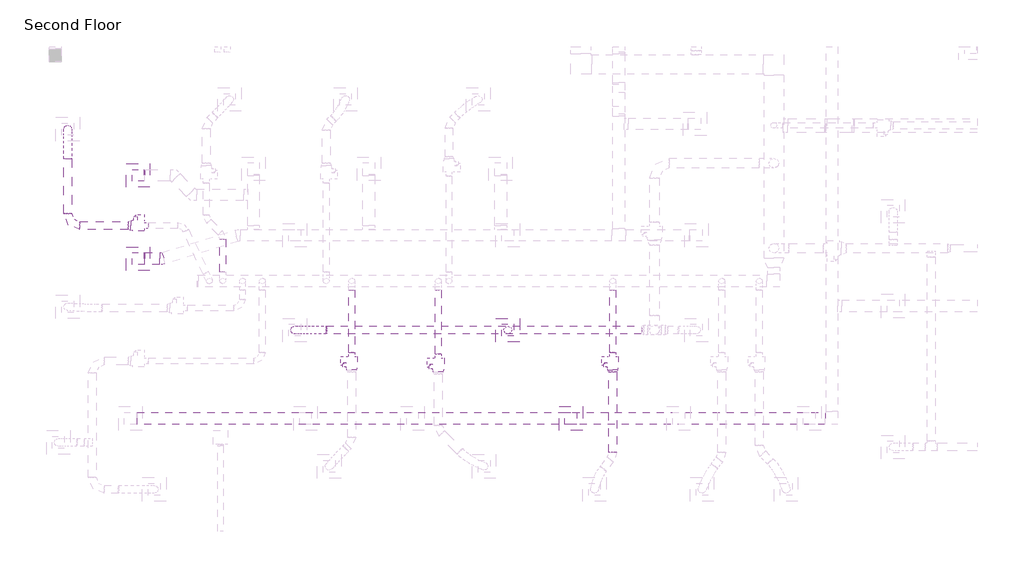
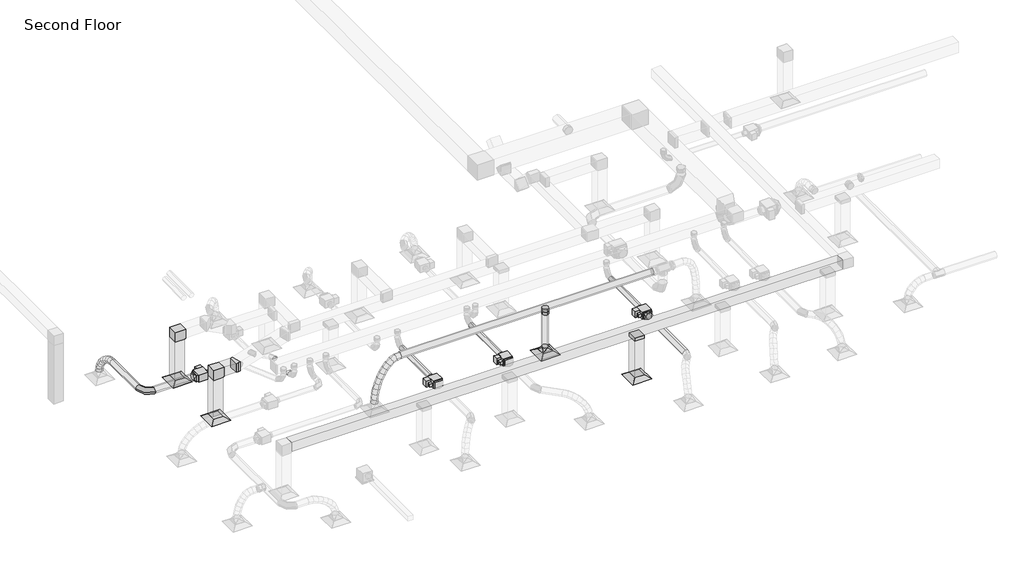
# One storey, part 4 of 44: 16 duct segments, 9 duct fittings, 4 air terminals, 4 proxies.
"""IFC4 building model written with IfcOpenShell, lengths in millimetres."""

from ifc_helpers import new_model, si_unit, point, frame, frame_2d, origin, place, context, project, spatial, polyline, circle_curve, ellipse_curve, trimmed, segment, composite_curve, outline, extrude, transform, mapped, element, save
from ifc_brep_helpers import plane_surface, cylinder_surface, advanced_brep
from components import m_exhaust_grill_er_600_x_600_face_300_x_300_connection_ff221211, m_vav_unit_single_duct_150_mm_ffdab17b, m_rectangular_elbow_mitered_standard_8eee5933, m_rectangular_elbow_mitered_standard_7d0aea46, m_rectangular_takeoff_standard_c00386d1, m_rectangular_to_round_transition_angle_45_degree_1b7ae117, m_rectangular_to_round_transition_angle_45_degree_fe40cbe3, m_round_elbow_1_5_d_b7bc3624, m_round_takeoff_standard_c62ca294

model = new_model("IFC4")

# Units and contexts
model_context = context("Model", 3, world=origin())
ifc_project = project(units=[si_unit("LENGTHUNIT", "METRE", prefix="MILLI")], contexts=[model_context])

# Site, building, storey
site = spatial("IfcSite", under=ifc_project)
building = spatial("IfcBuilding", under=site)
storey = spatial("IfcBuildingStorey", under=building, Name="Second Floor", Elevation=4570.0)

# Air terminals
placement = place(None, origin())
m_exhaust_grill_er_600_x_600_face_300_x_300_connection_shape = m_exhaust_grill_er_600_x_600_face_300_x_300_connection_ff221211(model_context)
element("IfcAirTerminal", 1, ObjectType="M_Return Register : RR-600 x 600 Face 300 x 300 Connection", at=placement, inside=storey, context=model_context, shape_type="MappedRepresentation", body=[
    mapped(m_exhaust_grill_er_600_x_600_face_300_x_300_connection_shape, transform((-33219.099187, 12657.116341, 7250.0), x_axis=(1.0, 0.0, 0.0), y_axis=(0.0, 1.0, 0.0), z_axis=(0.0, 0.0, 1.0))),
])
element("IfcAirTerminal", 2, ObjectType="M_Return Register : RR-600 x 600 Face 300 x 300 Connection", at=placement, inside=storey, context=model_context, shape_type="MappedRepresentation", body=[
    mapped(m_exhaust_grill_er_600_x_600_face_300_x_300_connection_shape, transform((-44196.6192649, 16712.5094853, 7250.0), x_axis=(1.0, 0.0, 0.0), y_axis=(0.0, 1.0, 0.0), z_axis=(0.0, 0.0, 1.0))),
])
element("IfcAirTerminal", 3, ObjectType="M_Return Register : RR-600 x 600 Face 300 x 300 Connection", at=placement, inside=storey, context=model_context, shape_type="MappedRepresentation", body=[
    mapped(m_exhaust_grill_er_600_x_600_face_300_x_300_connection_shape, transform((-44196.6192649, 18829.5508539, 7250.0), x_axis=(1.0, 0.0, 0.0), y_axis=(0.0, 1.0, 0.0), z_axis=(0.0, 0.0, 1.0))),
])
element("IfcAirTerminal", 4, ObjectType="M_Supply Diffuser : SD-600 x 600 Face 300 x 300 Connection", at=placement, inside=storey, context=model_context, shape_type="MappedRepresentation", body=[
    mapped(m_exhaust_grill_er_600_x_600_face_300_x_300_connection_shape, transform((-34817.740769, 14899.476398, 7250.0), x_axis=(1.0, 0.0, 0.0), y_axis=(0.0, 1.0, 0.0), z_axis=(0.0, 0.0, 1.0))),
])

# Proxies
m_vav_unit_single_duct_150_mm_shape = m_vav_unit_single_duct_150_mm_ffdab17b(model_context)
element("IfcBuildingElementProxy", 5, Name="M_VAV Unit - Single Duct : 150 mm", ObjectType="M_VAV Unit - Single Duct : 150 mm", at=placement, inside=storey, context=model_context, shape_type="MappedRepresentation", body=[
    mapped(m_vav_unit_single_duct_150_mm_shape, transform((-38775.1271337, 14234.6174916, 8070.0), x_axis=(0.0, -1.0, 0.0), y_axis=(1.0, 0.0, 0.0), z_axis=(0.0, 0.0, 1.0))),
])
element("IfcBuildingElementProxy", 6, Name="M_VAV Unit - Single Duct : 150 mm", ObjectType="M_VAV Unit - Single Duct : 150 mm", at=placement, inside=storey, context=model_context, shape_type="MappedRepresentation", body=[
    mapped(m_vav_unit_single_duct_150_mm_shape, transform((-36578.6814374, 14186.2279081, 8070.0), x_axis=(0.0, -1.0, 0.0), y_axis=(1.0, 0.0, 0.0), z_axis=(0.0, 0.0, 1.0))),
])
element("IfcBuildingElementProxy", 7, Name="M_VAV Unit - Single Duct : 150 mm", ObjectType="M_VAV Unit - Single Duct : 150 mm", at=placement, inside=storey, context=model_context, shape_type="MappedRepresentation", body=[
    mapped(m_vav_unit_single_duct_150_mm_shape, transform((-32155.5986641, 14234.6174916, 8070.0), x_axis=(0.0, -1.0, 0.0), y_axis=(1.0, 0.0, 0.0), z_axis=(0.0, 0.0, 1.0))),
])
element("IfcBuildingElementProxy", 8, Name="M_VAV Unit - Single Duct : 150 mm", ObjectType="M_VAV Unit - Single Duct : 150 mm", at=placement, inside=storey, context=model_context, shape_type="MappedRepresentation", body=[
    mapped(m_vav_unit_single_duct_150_mm_shape, transform((-44044.3292263, 17554.2706552, 8070.0), x_axis=(-1.0, 0.0, 0.0), y_axis=(0.0, -1.0, 0.0), z_axis=(0.0, 0.0, 1.0))),
])

# Duct fittings
m_rectangular_elbow_mitered_standard_shape = m_rectangular_elbow_mitered_standard_8eee5933(model_context)
element("IfcDuctFitting", 9, ObjectType="M_Rectangular Elbow - Mitered : Standard", at=placement, inside=storey, context=model_context, shape_type="MappedRepresentation", body=[
    mapped(m_rectangular_elbow_mitered_standard_shape, transform((-44196.6192649, 16712.5094853, 8820.0), x_axis=(0.0, 0.0, 1.0), y_axis=(1.0, 0.0, 0.0), z_axis=(0.0, 1.0, 0.0))),
])
element("IfcDuctFitting", 10, ObjectType="M_Rectangular Elbow - Mitered : Standard", at=placement, inside=storey, context=model_context, shape_type="MappedRepresentation", body=[
    mapped(m_rectangular_elbow_mitered_standard_shape, transform((-44196.6192649, 18829.5508539, 8820.0), x_axis=(0.0, 0.0, 1.0), y_axis=(1.0, 0.0, 0.0), z_axis=(0.0, 1.0, 0.0))),
])
m_rectangular_elbow_mitered_standard_2_shape = m_rectangular_elbow_mitered_standard_7d0aea46(model_context)
element("IfcDuctFitting", 11, ObjectType="M_Rectangular Elbow - Mitered : Standard", at=placement, inside=storey, context=model_context, shape_type="MappedRepresentation", body=[
    mapped(m_rectangular_elbow_mitered_standard_2_shape, transform((-43596.6192649, 16712.5094853, 8820.0), x_axis=(1.0, 0.0, 0.0), y_axis=(0.0, 1.0, 0.0), z_axis=(0.0, 0.0, 1.0))),
])
m_rectangular_takeoff_standard_shape = m_rectangular_takeoff_standard_c00386d1(model_context)
element("IfcDuctFitting", 12, ObjectType="M_Rectangular Takeoff : Standard", at=placement, inside=storey, context=model_context, shape_type="MappedRepresentation", body=[
    mapped(m_rectangular_takeoff_standard_shape, transform((-33219.099187, 12657.116341, 8670.0), x_axis=(0.0, 0.0, -1.0), y_axis=(0.0, 1.0, 0.0), z_axis=(1.0, 0.0, 0.0))),
])
m_rectangular_to_round_transition_angle_45_degree_shape = m_rectangular_to_round_transition_angle_45_degree_1b7ae117(model_context)
element("IfcDuctFitting", 13, ObjectType="M_Rectangular to Round Transition - Angle : 45 Degree", at=placement, inside=storey, context=model_context, shape_type="MappedRepresentation", body=[
    mapped(m_rectangular_to_round_transition_angle_45_degree_shape, transform((-32155.5986641, 13891.8174916, 8189.05), x_axis=(0.0, -1.0, 0.0), y_axis=(1.0, 0.0, 0.0), z_axis=(0.0, 0.0, 1.0))),
])
element("IfcDuctFitting", 14, ObjectType="M_Rectangular to Round Transition - Angle : 45 Degree", at=placement, inside=storey, context=model_context, shape_type="MappedRepresentation", body=[
    mapped(m_rectangular_to_round_transition_angle_45_degree_shape, transform((-44387.1292263, 17554.2706552, 8189.05), x_axis=(-1.0, 0.0, 0.0), y_axis=(0.0, -1.0, 0.0), z_axis=(0.0, 0.0, 1.0))),
])
m_rectangular_to_round_transition_angle_45_degree_2_shape = m_rectangular_to_round_transition_angle_45_degree_fe40cbe3(model_context)
element("IfcDuctFitting", 15, ObjectType="M_Rectangular to Round Transition - Angle : 45 Degree", at=placement, inside=storey, context=model_context, shape_type="MappedRepresentation", body=[
    mapped(m_rectangular_to_round_transition_angle_45_degree_2_shape, transform((-34817.740769, 14899.476398, 7351.6), x_axis=(0.0, 0.0, 1.0), y_axis=(0.0, -1.0, 0.0), z_axis=(1.0, 0.0, 0.0))),
])
m_round_elbow_1_5_d_shape = m_round_elbow_1_5_d_b7bc3624(model_context)
element("IfcDuctFitting", 16, ObjectType="M_Round Elbow : 1.5 D", at=placement, inside=storey, context=model_context, shape_type="MappedRepresentation", body=[
    mapped(m_round_elbow_1_5_d_shape, transform((-45979.7910179, 17554.2706552, 8189.1), x_axis=(0.0, -1.0, 0.0), y_axis=(1.0, 0.0, 0.0), z_axis=(0.0, 0.0, 1.0))),
])
m_round_takeoff_standard_shape = m_round_takeoff_standard_c62ca294(model_context)
element("IfcDuctFitting", 17, ObjectType="M_Round Takeoff : Standard", at=placement, inside=storey, context=model_context, shape_type="MappedRepresentation", body=[
    mapped(m_round_takeoff_standard_shape, transform((-34817.740769, 14899.476398, 8670.0), x_axis=(0.0, 0.0, -1.0), y_axis=(0.0, 1.0, 0.0), z_axis=(1.0, 0.0, 0.0))),
])

# Duct segments
element("IfcDuctSegment", 18, ObjectType="Flex - Round", at=placement, inside=storey, context=model_context, shape_type="AdvancedBrep", body=[
    advanced_brep(
    [(-46079.7910179, 19254.2706545, 8189.1), (-45979.7910179, 19241.6620237, 8089.8980725), (-45879.7910179, 19254.2706545, 8189.1), (-45979.7910179, 19266.8792853, 8288.3019275), (-46079.7910179, 19385.3206607, 8172.4434572), (-45979.7910179, 19361.8993201, 8074.6158323), (-45879.7910179, 19385.3206607, 8172.4434572), (-45979.7910179, 19408.7420014, 8270.2710822), (-46079.7910179, 20000.1386962, 7472.3106781), (-45979.7910179, 20099.2005511, 7485.9762884), (-45879.7910179, 20000.1386962, 7472.3106781), (-45979.7910179, 19901.0768413, 7458.6450678), (-46079.7910179, 19516.2833767, 8125.5919487), (-45979.7910179, 19474.1281781, 8034.4663038), (-45879.7910179, 19516.2833767, 8125.5919487), (-45979.7910179, 19558.4385754, 8216.7175936), (-46079.7910179, 19641.8000903, 8053.2226541), (-45979.7910179, 19584.9343117, 7970.5787027), (-45879.7910179, 19641.8000903, 8053.2226541), (-45979.7910179, 19698.6658689, 8135.8666055), (-46079.7910179, 19756.5120893, 7960.012753), (-45979.7910179, 19687.420981, 7887.3025643), (-45879.7910179, 19756.5120893, 7960.012753), (-45979.7910179, 19825.6031977, 8032.7229417), (-46079.7910179, 19855.0606616, 7850.6394252), (-45979.7910179, 19775.2014978, 7789.8800749), (-45879.7910179, 19855.0606616, 7850.6394252), (-45979.7910179, 19934.9198254, 7911.3987756), (-46079.7910179, 19932.0870949, 7729.7798504), (-45979.7910179, 19842.5510778, 7684.2041237), (-45879.7910179, 19932.0870949, 7729.7798504), (-45979.7910179, 20021.623112, 7775.355577), (-46079.7910179, 19982.2326772, 7602.1112081), (-45979.7910179, 19884.7990741, 7576.6424187), (-45879.7910179, 19982.2326772, 7602.1112081), (-45979.7910179, 20079.6662803, 7627.5799975)],
    [
        (0, 1, circle_curve(frame((-45979.7910179, 19254.2706545, 8189.1), z_axis=(0.0, -0.9920192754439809, 0.1260863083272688), x_axis=(-1.0, 0.0, 0.0)), 100.0)),
        (1, 2, circle_curve(frame((-45979.7910179, 19254.2706545, 8189.1), z_axis=(0.0, -0.9920192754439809, 0.1260863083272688), x_axis=(-1.0, 0.0, 0.0)), 100.0)),
        (2, 3, circle_curve(frame((-45979.7910179, 19254.2706545, 8189.1), z_axis=(0.0, -0.9920192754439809, 0.1260863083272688), x_axis=(-1.0, 0.0, 0.0)), 100.0)),
        (3, 0, circle_curve(frame((-45979.7910179, 19254.2706545, 8189.1), z_axis=(0.0, -0.9920192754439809, 0.1260863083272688), x_axis=(-1.0, 0.0, 0.0)), 100.0)),
        (0, 4),
        (4, 5, ellipse_curve(frame((-45979.7910179, 19385.3206607, 8172.4434572), z_axis=(0.0, -0.972516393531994, 0.2328344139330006), x_axis=(0.0, -0.2328344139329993, -0.9725163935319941)), 100.5922631, 100.0)),
        (5, 1),
        (5, 6, ellipse_curve(frame((-45979.7910179, 19385.3206607, 8172.4434572), z_axis=(0.0, -0.972516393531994, 0.2328344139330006), x_axis=(0.0, -0.2328344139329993, -0.9725163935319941)), 100.5922631, 100.0)),
        (6, 2),
        (6, 7, ellipse_curve(frame((-45979.7910179, 19385.3206607, 8172.4434572), z_axis=(0.0, -0.972516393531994, 0.2328344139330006), x_axis=(0.0, -0.2328344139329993, -0.9725163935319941)), 100.5922631, 100.0)),
        (7, 3),
        (7, 4, ellipse_curve(frame((-45979.7910179, 19385.3206607, 8172.4434572), z_axis=(0.0, -0.972516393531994, 0.2328344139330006), x_axis=(0.0, -0.2328344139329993, -0.9725163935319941)), 100.5922631, 100.0)),
        (8, 9, circle_curve(frame((-45979.7910179, 20000.1386962, 7472.3106781), z_axis=(0.0, 0.1366561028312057, -0.9906185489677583), x_axis=(-1.0, 0.0, 0.0)), 100.0)),
        (9, 10, circle_curve(frame((-45979.7910179, 20000.1386962, 7472.3106781), z_axis=(0.0, 0.1366561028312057, -0.9906185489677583), x_axis=(-1.0, 0.0, 0.0)), 100.0)),
        (10, 11, circle_curve(frame((-45979.7910179, 20000.1386962, 7472.3106781), z_axis=(0.0, 0.1366561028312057, -0.9906185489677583), x_axis=(-1.0, 0.0, 0.0)), 100.0)),
        (11, 8, circle_curve(frame((-45979.7910179, 20000.1386962, 7472.3106781), z_axis=(0.0, 0.1366561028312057, -0.9906185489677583), x_axis=(-1.0, 0.0, 0.0)), 100.0)),
        (4, 12),
        (12, 13, ellipse_curve(frame((-45979.7910179, 19516.2833767, 8125.5919487), z_axis=(0.0, -0.9075906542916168, 0.4198561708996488), x_axis=(0.0, -0.41985617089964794, -0.907590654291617)), 100.403904, 100.0)),
        (13, 5),
        (13, 14, ellipse_curve(frame((-45979.7910179, 19516.2833767, 8125.5919487), z_axis=(0.0, -0.9075906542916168, 0.4198561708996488), x_axis=(0.0, -0.41985617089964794, -0.907590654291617)), 100.403904, 100.0)),
        (14, 6),
        (14, 15, ellipse_curve(frame((-45979.7910179, 19516.2833767, 8125.5919487), z_axis=(0.0, -0.9075906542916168, 0.4198561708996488), x_axis=(0.0, -0.41985617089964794, -0.907590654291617)), 100.403904, 100.0)),
        (15, 7),
        (15, 12, ellipse_curve(frame((-45979.7910179, 19516.2833767, 8125.5919487), z_axis=(0.0, -0.9075906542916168, 0.4198561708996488), x_axis=(0.0, -0.41985617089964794, -0.907590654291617)), 100.403904, 100.0)),
        (12, 16),
        (16, 17, ellipse_curve(frame((-45979.7910179, 19641.8000903, 8053.2226541), z_axis=(0.0, -0.8238181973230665, 0.5668541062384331), x_axis=(0.0, -0.566854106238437, -0.8238181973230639)), 100.3181912, 100.0)),
        (17, 13),
        (17, 18, ellipse_curve(frame((-45979.7910179, 19641.8000903, 8053.2226541), z_axis=(0.0, -0.8238181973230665, 0.5668541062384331), x_axis=(0.0, -0.566854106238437, -0.8238181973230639)), 100.3181912, 100.0)),
        (18, 14),
        (18, 19, ellipse_curve(frame((-45979.7910179, 19641.8000903, 8053.2226541), z_axis=(0.0, -0.8238181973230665, 0.5668541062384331), x_axis=(0.0, -0.566854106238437, -0.8238181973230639)), 100.3181912, 100.0)),
        (19, 15),
        (19, 16, ellipse_curve(frame((-45979.7910179, 19641.8000903, 8053.2226541), z_axis=(0.0, -0.8238181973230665, 0.5668541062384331), x_axis=(0.0, -0.566854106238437, -0.8238181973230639)), 100.3181912, 100.0)),
        (16, 20),
        (20, 21, ellipse_curve(frame((-45979.7910179, 19756.5120893, 7960.012753), z_axis=(0.0, -0.7249176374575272, 0.6888355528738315), x_axis=(0.0, -0.688835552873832, -0.7249176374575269)), 100.30131, 100.0)),
        (21, 17),
        (21, 22, ellipse_curve(frame((-45979.7910179, 19756.5120893, 7960.012753), z_axis=(0.0, -0.7249176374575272, 0.6888355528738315), x_axis=(0.0, -0.688835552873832, -0.7249176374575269)), 100.30131, 100.0)),
        (22, 18),
        (22, 23, ellipse_curve(frame((-45979.7910179, 19756.5120893, 7960.012753), z_axis=(0.0, -0.7249176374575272, 0.6888355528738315), x_axis=(0.0, -0.688835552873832, -0.7249176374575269)), 100.30131, 100.0)),
        (23, 19),
        (23, 20, ellipse_curve(frame((-45979.7910179, 19756.5120893, 7960.012753), z_axis=(0.0, -0.7249176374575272, 0.6888355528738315), x_axis=(0.0, -0.688835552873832, -0.7249176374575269)), 100.30131, 100.0)),
        (20, 24),
        (24, 25, ellipse_curve(frame((-45979.7910179, 19855.0606616, 7850.6394252), z_axis=(0.0, -0.6055025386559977, 0.7958433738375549), x_axis=(0.0, -0.7958433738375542, -0.6055025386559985)), 100.3453272, 100.0)),
        (25, 21),
        (25, 26, ellipse_curve(frame((-45979.7910179, 19855.0606616, 7850.6394252), z_axis=(0.0, -0.6055025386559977, 0.7958433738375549), x_axis=(0.0, -0.7958433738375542, -0.6055025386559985)), 100.3453272, 100.0)),
        (26, 22),
        (26, 27, ellipse_curve(frame((-45979.7910179, 19855.0606616, 7850.6394252), z_axis=(0.0, -0.6055025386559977, 0.7958433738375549), x_axis=(0.0, -0.7958433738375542, -0.6055025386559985)), 100.3453272, 100.0)),
        (27, 23),
        (27, 24, ellipse_curve(frame((-45979.7910179, 19855.0606616, 7850.6394252), z_axis=(0.0, -0.6055025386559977, 0.7958433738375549), x_axis=(0.0, -0.7958433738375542, -0.6055025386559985)), 100.3453272, 100.0)),
        (24, 28),
        (28, 29, ellipse_curve(frame((-45979.7910179, 19932.0870949, 7729.7798504), z_axis=(0.0, -0.4536336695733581, 0.8911882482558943), x_axis=(0.0, -0.8911882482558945, -0.4536336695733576)), 100.4681304, 100.0)),
        (29, 25),
        (29, 30, ellipse_curve(frame((-45979.7910179, 19932.0870949, 7729.7798504), z_axis=(0.0, -0.4536336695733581, 0.8911882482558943), x_axis=(0.0, -0.8911882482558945, -0.4536336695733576)), 100.4681304, 100.0)),
        (30, 26),
        (30, 31, ellipse_curve(frame((-45979.7910179, 19932.0870949, 7729.7798504), z_axis=(0.0, -0.4536336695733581, 0.8911882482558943), x_axis=(0.0, -0.8911882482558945, -0.4536336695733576)), 100.4681304, 100.0)),
        (31, 27),
        (31, 28, ellipse_curve(frame((-45979.7910179, 19932.0870949, 7729.7798504), z_axis=(0.0, -0.4536336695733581, 0.8911882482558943), x_axis=(0.0, -0.8911882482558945, -0.4536336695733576)), 100.4681304, 100.0)),
        (28, 32),
        (32, 33, ellipse_curve(frame((-45979.7910179, 19982.2326772, 7602.1112081), z_axis=(0.0, -0.25289906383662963, 0.967492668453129), x_axis=(0.0, -0.9674926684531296, -0.25289906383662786)), 100.7073296, 100.0)),
        (33, 29),
        (33, 34, ellipse_curve(frame((-45979.7910179, 19982.2326772, 7602.1112081), z_axis=(0.0, -0.25289906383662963, 0.967492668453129), x_axis=(0.0, -0.9674926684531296, -0.25289906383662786)), 100.7073296, 100.0)),
        (34, 30),
        (34, 35, ellipse_curve(frame((-45979.7910179, 19982.2326772, 7602.1112081), z_axis=(0.0, -0.25289906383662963, 0.967492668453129), x_axis=(0.0, -0.9674926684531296, -0.25289906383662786)), 100.7073296, 100.0)),
        (35, 31),
        (35, 32, ellipse_curve(frame((-45979.7910179, 19982.2326772, 7602.1112081), z_axis=(0.0, -0.25289906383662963, 0.967492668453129), x_axis=(0.0, -0.9674926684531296, -0.25289906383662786)), 100.7073296, 100.0)),
        (32, 8),
        (11, 33),
        (10, 34),
        (9, 35),
    ],
    [
        plane_surface(frame((-45979.7910179, 19266.8792853, 8288.3019275), z_axis=(0.0, -0.992019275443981, 0.1260863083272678), x_axis=(1.0, 0.0, 0.0))),
        cylinder_surface(frame((-45979.7910179, 19254.2706545, 8189.1), z_axis=(0.0, -0.9920192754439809, 0.1260863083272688), x_axis=(-1.0, 0.0, 0.0)), 100.0),
        plane_surface(frame((-45979.7910179, 20099.2005511, 7485.9762884), z_axis=(0.0, 0.1366561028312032, -0.9906185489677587), x_axis=(1.0, 0.0, 0.0))),
        cylinder_surface(frame((-45979.7910179, 19385.3206607, 8172.4434572), z_axis=(0.0, -0.9415616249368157, 0.33684077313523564), x_axis=(-1.0, 0.0, 0.0)), 100.0),
        cylinder_surface(frame((-45979.7910179, 19516.2833767, 8125.5919487), z_axis=(0.0, -0.8663175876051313, 0.49949358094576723), x_axis=(-1.0, 0.0, 0.0)), 100.0),
        cylinder_surface(frame((-45979.7910179, 19641.8000903, 8053.2226541), z_axis=(0.0, -0.7760928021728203, 0.6306187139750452), x_axis=(-1.0, 0.0, 0.0)), 100.0),
        cylinder_surface(frame((-45979.7910179, 19756.5120893, 7960.012753), z_axis=(0.0, -0.6693870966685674, 0.7429138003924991), x_axis=(-1.0, 0.0, 0.0)), 100.0),
        cylinder_surface(frame((-45979.7910179, 19855.0606616, 7850.6394252), z_axis=(0.0, -0.5374504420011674, 0.843295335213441), x_axis=(-1.0, 0.0, 0.0)), 100.0),
        cylinder_surface(frame((-45979.7910179, 19932.0870949, 7729.7798504), z_axis=(0.0, -0.3655894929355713, 0.9307761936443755), x_axis=(-1.0, 0.0, 0.0)), 100.0),
        cylinder_surface(frame((-45979.7910179, 19982.2326772, 7602.1112081), z_axis=(0.0, -0.1366561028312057, 0.9906185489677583), x_axis=(-1.0, 0.0, 0.0)), 100.0),
    ],
    [
        (0, [[1, 2, 3, 4]]),
        (1, [[-1, 5, 6, 7]]),
        (1, [[-2, -7, 8, 9]]),
        (1, [[-3, -9, 10, 11]]),
        (1, [[-4, -11, 12, -5]]),
        (2, [[13, 14, 15, 16]]),
        (3, [[-6, 17, 18, 19]]),
        (3, [[-8, -19, 20, 21]]),
        (3, [[-10, -21, 22, 23]]),
        (3, [[-12, -23, 24, -17]]),
        (4, [[-18, 25, 26, 27]]),
        (4, [[-20, -27, 28, 29]]),
        (4, [[-22, -29, 30, 31]]),
        (4, [[-24, -31, 32, -25]]),
        (5, [[-26, 33, 34, 35]]),
        (5, [[-28, -35, 36, 37]]),
        (5, [[-30, -37, 38, 39]]),
        (5, [[-32, -39, 40, -33]]),
        (6, [[-34, 41, 42, 43]]),
        (6, [[-36, -43, 44, 45]]),
        (6, [[-38, -45, 46, 47]]),
        (6, [[-40, -47, 48, -41]]),
        (7, [[-42, 49, 50, 51]]),
        (7, [[-44, -51, 52, 53]]),
        (7, [[-46, -53, 54, 55]]),
        (7, [[-48, -55, 56, -49]]),
        (8, [[-50, 57, 58, 59]]),
        (8, [[-52, -59, 60, 61]]),
        (8, [[-54, -61, 62, 63]]),
        (8, [[-56, -63, 64, -57]]),
        (9, [[-58, 65, -16, 66]]),
        (9, [[-60, -66, -15, 67]]),
        (9, [[-62, -67, -14, 68]]),
        (9, [[-64, -68, -13, -65]]),
    ],
),
])
element("IfcDuctSegment", 19, ObjectType="Flex - Round", at=placement, inside=storey, context=model_context, shape_type="AdvancedBrep", body=[
    advanced_brep(
    [(-39418.7286771, 14799.476398, 8770.0), (-39404.8053589, 14899.476398, 8670.9740377), (-39418.7286771, 14999.476398, 8770.0), (-39432.6519953, 14899.476398, 8869.0259623), (-39552.1268823, 14799.476398, 8751.2438515), (-39524.790834, 14899.476398, 8654.1037553), (-39552.1268823, 14999.476398, 8751.2438515), (-39579.4629306, 14899.476398, 8848.3839477), (-40222.3950538, 14799.476398, 7472.3106781), (-40322.270124, 14899.476398, 7477.3077128), (-40222.3950538, 14999.476398, 7472.3106781), (-40122.5199836, 14899.476398, 7467.3136434), (-39674.5521574, 14799.476398, 8698.1879834), (-39624.1871639, 14899.476398, 8611.0280215), (-39674.5521574, 14999.476398, 8698.1879834), (-39724.9171509, 14899.476398, 8785.3479453), (-39785.6396374, 14799.476398, 8615.6512616), (-39718.5864248, 14899.476398, 8540.8904548), (-39785.6396374, 14999.476398, 8615.6512616), (-39852.6928499, 14899.476398, 8690.4120685), (-39885.0244573, 14799.476398, 8508.4525523), (-39806.7391031, 14899.476398, 8445.8069868), (-39885.0244573, 14999.476398, 8508.4525523), (-39963.3098114, 14899.476398, 8571.0981178), (-39972.341752, 14799.476398, 8381.4107213), (-39886.6113188, 14899.476398, 8329.5973338), (-39972.341752, 14999.476398, 8381.4107213), (-40058.0721853, 14899.476398, 8433.2241088), (-40047.2266567, 14799.476398, 8239.3446347), (-39956.4786668, 14899.476398, 8197.0501836), (-40047.2266567, 14999.476398, 8239.3446347), (-40137.9746467, 14899.476398, 8281.6390858), (-40109.3143063, 14799.476398, 8087.0731585), (-40015.086501, 14899.476398, 8053.3130396), (-40109.3143063, 14999.476398, 8087.0731585), (-40203.5421117, 14899.476398, 8120.8332775), (-40158.2398359, 14799.476398, 7929.4151588), (-40061.5348033, 14899.476398, 7903.637676), (-40158.2398359, 14999.476398, 7929.4151588), (-40254.9448684, 14899.476398, 7955.1926416), (-40193.6383803, 14799.476398, 7771.1895015), (-40095.1625844, 14899.476398, 7753.3270386), (-40193.6383803, 14999.476398, 7771.1895015), (-40292.1141761, 14899.476398, 7789.0519644), (-40215.1450746, 14799.476398, 7617.2150526), (-40115.4919886, 14899.476398, 7607.7812488), (-40215.1450746, 14999.476398, 7617.2150526), (-40314.7981605, 14899.476398, 7626.6488564)],
    [
        (0, 1, circle_curve(frame((-39418.7286771, 14899.476398, 8770.0), z_axis=(0.9902596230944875, 0.0, 0.13923318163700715), x_axis=(0.0, -1.0, 0.0)), 100.0)),
        (1, 2, circle_curve(frame((-39418.7286771, 14899.476398, 8770.0), z_axis=(0.9902596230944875, 0.0, 0.13923318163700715), x_axis=(0.0, -1.0, 0.0)), 100.0)),
        (2, 3, circle_curve(frame((-39418.7286771, 14899.476398, 8770.0), z_axis=(0.9902596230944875, 0.0, 0.13923318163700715), x_axis=(0.0, -1.0, 0.0)), 100.0)),
        (3, 0, circle_curve(frame((-39418.7286771, 14899.476398, 8770.0), z_axis=(0.9902596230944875, 0.0, 0.13923318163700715), x_axis=(0.0, -1.0, 0.0)), 100.0)),
        (0, 4),
        (4, 5, ellipse_curve(frame((-39552.1268823, 14899.476398, 8751.2438515), z_axis=(0.9626111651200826, 0.0, 0.2708869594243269), x_axis=(0.2708869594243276, 0.0, -0.9626111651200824)), 100.9131202, 100.0)),
        (5, 1),
        (5, 6, ellipse_curve(frame((-39552.1268823, 14899.476398, 8751.2438515), z_axis=(0.9626111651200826, 0.0, 0.2708869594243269), x_axis=(0.2708869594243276, 0.0, -0.9626111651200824)), 100.9131202, 100.0)),
        (6, 2),
        (6, 7, ellipse_curve(frame((-39552.1268823, 14899.476398, 8751.2438515), z_axis=(0.9626111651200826, 0.0, 0.2708869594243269), x_axis=(0.2708869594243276, 0.0, -0.9626111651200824)), 100.9131202, 100.0)),
        (7, 3),
        (7, 4, ellipse_curve(frame((-39552.1268823, 14899.476398, 8751.2438515), z_axis=(0.9626111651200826, 0.0, 0.2708869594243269), x_axis=(0.2708869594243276, 0.0, -0.9626111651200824)), 100.9131202, 100.0)),
        (8, 9, circle_curve(frame((-40222.3950538, 14899.476398, 7472.3106781), z_axis=(-0.04997034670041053, 0.0, -0.9987507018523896), x_axis=(0.0, -1.0, 0.0)), 100.0)),
        (9, 10, circle_curve(frame((-40222.3950538, 14899.476398, 7472.3106781), z_axis=(-0.04997034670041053, 0.0, -0.9987507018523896), x_axis=(0.0, -1.0, 0.0)), 100.0)),
        (10, 11, circle_curve(frame((-40222.3950538, 14899.476398, 7472.3106781), z_axis=(-0.04997034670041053, 0.0, -0.9987507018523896), x_axis=(0.0, -1.0, 0.0)), 100.0)),
        (11, 8, circle_curve(frame((-40222.3950538, 14899.476398, 7472.3106781), z_axis=(-0.04997034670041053, 0.0, -0.9987507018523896), x_axis=(0.0, -1.0, 0.0)), 100.0)),
        (4, 12),
        (12, 13, ellipse_curve(frame((-39674.5521574, 14899.476398, 8698.1879834), z_axis=(0.8658396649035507, 0.0, 0.5003215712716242), x_axis=(0.5003215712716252, 0.0, -0.86583966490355)), 100.6652449, 100.0)),
        (13, 5),
        (13, 14, ellipse_curve(frame((-39674.5521574, 14899.476398, 8698.1879834), z_axis=(0.8658396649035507, 0.0, 0.5003215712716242), x_axis=(0.5003215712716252, 0.0, -0.86583966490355)), 100.6652449, 100.0)),
        (14, 6),
        (14, 15, ellipse_curve(frame((-39674.5521574, 14899.476398, 8698.1879834), z_axis=(0.8658396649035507, 0.0, 0.5003215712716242), x_axis=(0.5003215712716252, 0.0, -0.86583966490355)), 100.6652449, 100.0)),
        (15, 7),
        (15, 12, ellipse_curve(frame((-39674.5521574, 14899.476398, 8698.1879834), z_axis=(0.8658396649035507, 0.0, 0.5003215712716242), x_axis=(0.5003215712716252, 0.0, -0.86583966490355)), 100.6652449, 100.0)),
        (12, 16),
        (16, 17, ellipse_curve(frame((-39785.6396374, 14899.476398, 8615.6512616), z_axis=(0.7444393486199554, 0.0, 0.6676900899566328), x_axis=(0.6676900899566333, 0.0, -0.744439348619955)), 100.4256519, 100.0)),
        (17, 13),
        (17, 18, ellipse_curve(frame((-39785.6396374, 14899.476398, 8615.6512616), z_axis=(0.7444393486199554, 0.0, 0.6676900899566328), x_axis=(0.6676900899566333, 0.0, -0.744439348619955)), 100.4256519, 100.0)),
        (18, 14),
        (18, 19, ellipse_curve(frame((-39785.6396374, 14899.476398, 8615.6512616), z_axis=(0.7444393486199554, 0.0, 0.6676900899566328), x_axis=(0.6676900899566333, 0.0, -0.744439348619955)), 100.4256519, 100.0)),
        (19, 15),
        (19, 16, ellipse_curve(frame((-39785.6396374, 14899.476398, 8615.6512616), z_axis=(0.7444393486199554, 0.0, 0.6676900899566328), x_axis=(0.6676900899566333, 0.0, -0.744439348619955)), 100.4256519, 100.0)),
        (16, 20),
        (20, 21, ellipse_curve(frame((-39885.0244573, 14899.476398, 8508.4525523), z_axis=(0.6248001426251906, 0.0, 0.7807847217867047), x_axis=(0.7807847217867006, 0.0, -0.6248001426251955)), 100.2649667, 100.0)),
        (21, 17),
        (21, 22, ellipse_curve(frame((-39885.0244573, 14899.476398, 8508.4525523), z_axis=(0.6248001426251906, 0.0, 0.7807847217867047), x_axis=(0.7807847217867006, 0.0, -0.6248001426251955)), 100.2649667, 100.0)),
        (22, 18),
        (22, 23, ellipse_curve(frame((-39885.0244573, 14899.476398, 8508.4525523), z_axis=(0.6248001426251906, 0.0, 0.7807847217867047), x_axis=(0.7807847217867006, 0.0, -0.6248001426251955)), 100.2649667, 100.0)),
        (23, 19),
        (23, 20, ellipse_curve(frame((-39885.0244573, 14899.476398, 8508.4525523), z_axis=(0.6248001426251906, 0.0, 0.7807847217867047), x_axis=(0.7807847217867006, 0.0, -0.6248001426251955)), 100.2649667, 100.0)),
        (20, 24),
        (24, 25, ellipse_curve(frame((-39972.341752, 14899.476398, 8381.4107213), z_axis=(0.5172466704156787, 0.0, 0.8558363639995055), x_axis=(0.8558363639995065, 0.0, -0.5172466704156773)), 100.1715244, 100.0)),
        (25, 21),
        (25, 26, ellipse_curve(frame((-39972.341752, 14899.476398, 8381.4107213), z_axis=(0.5172466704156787, 0.0, 0.8558363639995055), x_axis=(0.8558363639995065, 0.0, -0.5172466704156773)), 100.1715244, 100.0)),
        (26, 22),
        (26, 27, ellipse_curve(frame((-39972.341752, 14899.476398, 8381.4107213), z_axis=(0.5172466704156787, 0.0, 0.8558363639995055), x_axis=(0.8558363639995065, 0.0, -0.5172466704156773)), 100.1715244, 100.0)),
        (27, 23),
        (27, 24, ellipse_curve(frame((-39972.341752, 14899.476398, 8381.4107213), z_axis=(0.5172466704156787, 0.0, 0.8558363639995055), x_axis=(0.8558363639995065, 0.0, -0.5172466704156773)), 100.1715244, 100.0)),
        (24, 28),
        (28, 29, ellipse_curve(frame((-40047.2266567, 14899.476398, 8239.3446347), z_axis=(0.4224375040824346, 0.0, 0.9063920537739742), x_axis=(0.9063920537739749, 0.0, -0.4224375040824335)), 100.1200193, 100.0)),
        (29, 25),
        (29, 30, ellipse_curve(frame((-40047.2266567, 14899.476398, 8239.3446347), z_axis=(0.4224375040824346, 0.0, 0.9063920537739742), x_axis=(0.9063920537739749, 0.0, -0.4224375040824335)), 100.1200193, 100.0)),
        (30, 26),
        (30, 31, ellipse_curve(frame((-40047.2266567, 14899.476398, 8239.3446347), z_axis=(0.4224375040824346, 0.0, 0.9063920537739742), x_axis=(0.9063920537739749, 0.0, -0.4224375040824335)), 100.1200193, 100.0)),
        (31, 27),
        (31, 28, ellipse_curve(frame((-40047.2266567, 14899.476398, 8239.3446347), z_axis=(0.4224375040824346, 0.0, 0.9063920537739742), x_axis=(0.9063920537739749, 0.0, -0.4224375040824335)), 100.1200193, 100.0)),
        (28, 32),
        (32, 33, ellipse_curve(frame((-40109.3143063, 14899.476398, 8087.0731585), z_axis=(0.33728723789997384, 0.0, 0.9414017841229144), x_axis=(0.9414017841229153, 0.0, -0.33728723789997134)), 100.0930813, 100.0)),
        (33, 29),
        (33, 34, ellipse_curve(frame((-40109.3143063, 14899.476398, 8087.0731585), z_axis=(0.33728723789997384, 0.0, 0.9414017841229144), x_axis=(0.9414017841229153, 0.0, -0.33728723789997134)), 100.0930813, 100.0)),
        (34, 30),
        (34, 35, ellipse_curve(frame((-40109.3143063, 14899.476398, 8087.0731585), z_axis=(0.33728723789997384, 0.0, 0.9414017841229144), x_axis=(0.9414017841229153, 0.0, -0.33728723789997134)), 100.0930813, 100.0)),
        (35, 31),
        (35, 32, ellipse_curve(frame((-40109.3143063, 14899.476398, 8087.0731585), z_axis=(0.33728723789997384, 0.0, 0.9414017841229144), x_axis=(0.9414017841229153, 0.0, -0.33728723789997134)), 100.0930813, 100.0)),
        (32, 36),
        (36, 37, ellipse_curve(frame((-40158.2398359, 14899.476398, 7929.4151588), z_axis=(0.2575644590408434, 0.0, 0.9662611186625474), x_axis=(0.9662611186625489, 0.0, -0.25756445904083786)), 100.0816764, 100.0)),
        (37, 33),
        (37, 38, ellipse_curve(frame((-40158.2398359, 14899.476398, 7929.4151588), z_axis=(0.2575644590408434, 0.0, 0.9662611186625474), x_axis=(0.9662611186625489, 0.0, -0.25756445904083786)), 100.0816764, 100.0)),
        (38, 34),
        (38, 39, ellipse_curve(frame((-40158.2398359, 14899.476398, 7929.4151588), z_axis=(0.2575644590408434, 0.0, 0.9662611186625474), x_axis=(0.9662611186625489, 0.0, -0.25756445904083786)), 100.0816764, 100.0)),
        (39, 35),
        (39, 36, ellipse_curve(frame((-40158.2398359, 14899.476398, 7929.4151588), z_axis=(0.2575644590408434, 0.0, 0.9662611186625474), x_axis=(0.9662611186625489, 0.0, -0.25756445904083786)), 100.0816764, 100.0)),
        (36, 40),
        (40, 41, ellipse_curve(frame((-40193.6383803, 14899.476398, 7771.1895015), z_axis=(0.17847700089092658, 0.0, 0.9839440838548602), x_axis=(0.9839440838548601, 0.0, -0.1784770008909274)), 100.0827156, 100.0)),
        (41, 37),
        (41, 42, ellipse_curve(frame((-40193.6383803, 14899.476398, 7771.1895015), z_axis=(0.17847700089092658, 0.0, 0.9839440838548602), x_axis=(0.9839440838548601, 0.0, -0.1784770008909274)), 100.0827156, 100.0)),
        (42, 38),
        (42, 43, ellipse_curve(frame((-40193.6383803, 14899.476398, 7771.1895015), z_axis=(0.17847700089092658, 0.0, 0.9839440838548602), x_axis=(0.9839440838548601, 0.0, -0.1784770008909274)), 100.0827156, 100.0)),
        (43, 39),
        (43, 40, ellipse_curve(frame((-40193.6383803, 14899.476398, 7771.1895015), z_axis=(0.17847700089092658, 0.0, 0.9839440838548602), x_axis=(0.9839440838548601, 0.0, -0.1784770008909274)), 100.0827156, 100.0)),
        (40, 44),
        (44, 45, ellipse_curve(frame((-40215.1450746, 14899.476398, 7617.2150526), z_axis=(0.0942450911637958, 0.0, 0.9955490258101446), x_axis=(0.9955490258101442, 0.0, -0.09424509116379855)), 100.0986224, 100.0)),
        (45, 41),
        (45, 46, ellipse_curve(frame((-40215.1450746, 14899.476398, 7617.2150526), z_axis=(0.0942450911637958, 0.0, 0.9955490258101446), x_axis=(0.9955490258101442, 0.0, -0.09424509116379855)), 100.0986224, 100.0)),
        (46, 42),
        (46, 47, ellipse_curve(frame((-40215.1450746, 14899.476398, 7617.2150526), z_axis=(0.0942450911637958, 0.0, 0.9955490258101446), x_axis=(0.9955490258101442, 0.0, -0.09424509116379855)), 100.0986224, 100.0)),
        (47, 43),
        (47, 44, ellipse_curve(frame((-40215.1450746, 14899.476398, 7617.2150526), z_axis=(0.0942450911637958, 0.0, 0.9955490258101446), x_axis=(0.9955490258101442, 0.0, -0.09424509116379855)), 100.0986224, 100.0)),
        (44, 8),
        (11, 45),
        (10, 46),
        (9, 47),
    ],
    [
        plane_surface(frame((-39418.7286771, 14999.476398, 8770.0), z_axis=(0.9902596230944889, 0.0, 0.13923318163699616), x_axis=(0.13923318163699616, 0.0, -0.9902596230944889))),
        cylinder_surface(frame((-39418.7286771, 14899.476398, 8770.0), z_axis=(0.9902596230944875, 0.0, 0.13923318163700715), x_axis=(0.0, -1.0, 0.0)), 100.0),
        plane_surface(frame((-40222.3950538, 14999.476398, 7472.3106781), z_axis=(-0.04997034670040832, 0.0, -0.9987507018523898), x_axis=(0.9987507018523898, 0.0, -0.04997034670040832))),
        cylinder_surface(frame((-39552.1268823, 14899.476398, 8751.2438515), z_axis=(0.9175421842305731, 0.0, 0.3976384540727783), x_axis=(0.0, -1.0, 0.0)), 100.0),
        cylinder_surface(frame((-39674.5521574, 14899.476398, 8698.1879834), z_axis=(0.802693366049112, 0.0, 0.596391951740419), x_axis=(0.0, -1.0, 0.0)), 100.0),
        cylinder_surface(frame((-39785.6396374, 14899.476398, 8615.6512616), z_axis=(0.6798747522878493, 0.0, 0.7333282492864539), x_axis=(0.0, -1.0, 0.0)), 100.0),
        cylinder_surface(frame((-39885.0244573, 14899.476398, 8508.4525523), z_axis=(0.5664232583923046, 0.0, 0.8241144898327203), x_axis=(0.0, -1.0, 0.0)), 100.0),
        cylinder_surface(frame((-39972.341752, 14899.476398, 8381.4107213), z_axis=(0.46629871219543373, 0.0, 0.8846273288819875), x_axis=(0.0, -1.0, 0.0)), 100.0),
        cylinder_surface(frame((-40047.2266567, 14899.476398, 8239.3446347), z_axis=(0.3775634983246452, 0.0, 0.9259836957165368), x_axis=(0.0, -1.0, 0.0)), 100.0),
        cylinder_surface(frame((-40109.3143063, 14899.476398, 8087.0731585), z_axis=(0.29638365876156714, 0.0, 0.9550689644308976), x_axis=(0.0, -1.0, 0.0)), 100.0),
        cylinder_surface(frame((-40158.2398359, 14899.476398, 7929.4151588), z_axis=(0.2183248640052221, 0.0, 0.9758761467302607), x_axis=(0.0, -1.0, 0.0)), 100.0),
        cylinder_surface(frame((-40193.6383803, 14899.476398, 7771.1895015), z_axis=(0.13833412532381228, 0.0, 0.9903856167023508), x_axis=(0.0, -1.0, 0.0)), 100.0),
        cylinder_surface(frame((-40215.1450746, 14899.476398, 7617.2150526), z_axis=(0.04997034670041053, 0.0, 0.9987507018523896), x_axis=(0.0, -1.0, 0.0)), 100.0),
    ],
    [
        (0, [[1, 2, 3, 4]]),
        (1, [[-1, 5, 6, 7]]),
        (1, [[-2, -7, 8, 9]]),
        (1, [[-3, -9, 10, 11]]),
        (1, [[-4, -11, 12, -5]]),
        (2, [[13, 14, 15, 16]]),
        (3, [[-6, 17, 18, 19]]),
        (3, [[-8, -19, 20, 21]]),
        (3, [[-10, -21, 22, 23]]),
        (3, [[-12, -23, 24, -17]]),
        (4, [[-18, 25, 26, 27]]),
        (4, [[-20, -27, 28, 29]]),
        (4, [[-22, -29, 30, 31]]),
        (4, [[-24, -31, 32, -25]]),
        (5, [[-26, 33, 34, 35]]),
        (5, [[-28, -35, 36, 37]]),
        (5, [[-30, -37, 38, 39]]),
        (5, [[-32, -39, 40, -33]]),
        (6, [[-34, 41, 42, 43]]),
        (6, [[-36, -43, 44, 45]]),
        (6, [[-38, -45, 46, 47]]),
        (6, [[-40, -47, 48, -41]]),
        (7, [[-42, 49, 50, 51]]),
        (7, [[-44, -51, 52, 53]]),
        (7, [[-46, -53, 54, 55]]),
        (7, [[-48, -55, 56, -49]]),
        (8, [[-50, 57, 58, 59]]),
        (8, [[-52, -59, 60, 61]]),
        (8, [[-54, -61, 62, 63]]),
        (8, [[-56, -63, 64, -57]]),
        (9, [[-58, 65, 66, 67]]),
        (9, [[-60, -67, 68, 69]]),
        (9, [[-62, -69, 70, 71]]),
        (9, [[-64, -71, 72, -65]]),
        (10, [[-66, 73, 74, 75]]),
        (10, [[-68, -75, 76, 77]]),
        (10, [[-70, -77, 78, 79]]),
        (10, [[-72, -79, 80, -73]]),
        (11, [[-74, 81, 82, 83]]),
        (11, [[-76, -83, 84, 85]]),
        (11, [[-78, -85, 86, 87]]),
        (11, [[-80, -87, 88, -81]]),
        (12, [[-82, 89, -16, 90]]),
        (12, [[-84, -90, -15, 91]]),
        (12, [[-86, -91, -14, 92]]),
        (12, [[-88, -92, -13, -89]]),
    ],
),
])
element("IfcDuctSegment", 20, ObjectType="Mitered Elbows / Taps", at=placement, inside=storey, context=model_context, shape_type="SweptSolid", body=[
    extrude(outline(polyline([(-44216.7415292, 12507.116341), (-44216.7415292, 12807.116341), (-26766.7415292, 12807.116341), (-26766.7415292, 12507.116341), (-44216.7415292, 12507.116341)])), frame((0.0, 0.0, 8670.0), z_axis=(0.0, 0.0, 1.0), x_axis=(1.0, 0.0, 0.0)), (0.0, 0.0, 1.0), 300.0),
])
element("IfcDuctSegment", 21, ObjectType="Mitered Elbows / Taps", at=placement, inside=storey, context=model_context, shape_type="SweptSolid", body=[
    extrude(outline(polyline([(-33369.099187, 12507.116341), (-33369.099187, 12807.116341), (-33069.099187, 12807.116341), (-33069.099187, 12507.116341), (-33369.099187, 12507.116341)])), frame((0.0, 0.0, 7351.6), z_axis=(0.0, 0.0, 1.0), x_axis=(1.0, 0.0, 0.0)), (0.0, 0.0, 1.0), 1218.4),
])
element("IfcDuctSegment", 22, ObjectType="Mitered Elbows / Taps", at=placement, inside=storey, context=model_context, shape_type="SweptSolid", body=[
    extrude(outline(polyline([(-44021.6192649, 16562.5094853), (-44021.6192649, 16862.5094853), (-43644.0369151, 16862.5094853), (-43644.0369151, 16562.5094853), (-44021.6192649, 16562.5094853)])), frame((0.0, 0.0, 8670.0), z_axis=(0.0, 0.0, 1.0), x_axis=(1.0, 0.0, 0.0)), (0.0, 0.0, 1.0), 300.0),
])
element("IfcDuctSegment", 23, ObjectType="Mitered Elbows / Taps", at=placement, inside=storey, context=model_context, shape_type="SweptSolid", body=[
    extrude(outline(polyline([(-44046.6192649, 16862.5094853), (-44046.6192649, 16562.5094853), (-44346.6192649, 16562.5094853), (-44346.6192649, 16862.5094853), (-44046.6192649, 16862.5094853)])), frame((0.0, 0.0, 7351.6), z_axis=(0.0, 0.0, 1.0), x_axis=(1.0, 0.0, 0.0)), (0.0, 0.0, 1.0), 1293.4),
])
element("IfcDuctSegment", 24, ObjectType="Mitered Elbows / Taps", at=placement, inside=storey, context=model_context, shape_type="SweptSolid", body=[
    extrude(outline(polyline([(-44046.6192649, 18979.5508539), (-44046.6192649, 18679.5508539), (-44346.6192649, 18679.5508539), (-44346.6192649, 18979.5508539), (-44046.6192649, 18979.5508539)])), frame((0.0, 0.0, 7351.6), z_axis=(0.0, 0.0, 1.0), x_axis=(1.0, 0.0, 0.0)), (0.0, 0.0, 1.0), 1293.4),
])
element("IfcDuctSegment", 25, ObjectType="Taps", at=placement, inside=storey, context=model_context, shape_type="SweptSolid", body=[
    extrude(outline(composite_curve([segment(trimmed(circle_curve(frame_2d((8189.1, -32155.5986641)), 100.0), [point((8189.1, -32255.5986641))], [point((8089.1, -32155.5986641))], False, "CARTESIAN"), True, "CONTINUOUS"), segment(trimmed(circle_curve(frame_2d((8189.1, -32155.5986641)), 100.0), [point((8089.1, -32155.5986641))], [point((8189.1, -32055.5986641))], False, "CARTESIAN"), True, "CONTINUOUS"), segment(trimmed(circle_curve(frame_2d((8189.1, -32155.5986641)), 100.0), [point((8189.1, -32055.5986641))], [point((8289.1, -32155.5986641))], False, "CARTESIAN"), True, "CONTINUOUS"), segment(trimmed(circle_curve(frame_2d((8189.1, -32155.5986641)), 100.0), [point((8289.1, -32155.5986641))], [point((8189.1, -32255.5986641))], False, "CARTESIAN"), True, "CONTINUOUS")], self_intersect=False)), frame((0.0, 11793.1278595, 0.0), z_axis=(0.0, 1.0, 0.0), x_axis=(0.0, 0.0, 1.0)), (0.0, 0.0, 1.0), 2038.334293),
])
element("IfcDuctSegment", 26, ObjectType="Taps", at=placement, inside=storey, context=model_context, shape_type="SweptSolid", body=[
    extrude(outline(composite_curve([segment(trimmed(circle_curve(frame_2d((17554.2706552, 8189.1)), 100.0), [point((17654.2706552, 8189.1))], [point((17554.2706552, 8089.1))], False, "CARTESIAN"), True, "CONTINUOUS"), segment(trimmed(circle_curve(frame_2d((17554.2706552, 8189.1)), 100.0), [point((17554.2706552, 8089.1))], [point((17454.2706552, 8189.1))], False, "CARTESIAN"), True, "CONTINUOUS"), segment(trimmed(circle_curve(frame_2d((17554.2706552, 8189.1)), 100.0), [point((17454.2706552, 8189.1))], [point((17554.2706552, 8289.1))], False, "CARTESIAN"), True, "CONTINUOUS"), segment(trimmed(circle_curve(frame_2d((17554.2706552, 8189.1)), 100.0), [point((17554.2706552, 8289.1))], [point((17654.2706552, 8189.1))], False, "CARTESIAN"), True, "CONTINUOUS")], self_intersect=False)), frame((-45679.7910179, 0.0, 0.0), z_axis=(1.0, 0.0, 0.0), x_axis=(0.0, 1.0, 0.0)), (0.0, 0.0, 1.0), 1232.3064526),
])
element("IfcDuctSegment", 27, ObjectType="Taps", at=placement, inside=storey, context=model_context, shape_type="SweptSolid", body=[
    extrude(outline(composite_curve([segment(trimmed(circle_curve(frame_2d((8189.1, -45979.7910179)), 100.0), [point((8189.1, -45879.7910179))], [point((8289.1, -45979.7910179))], False, "CARTESIAN"), True, "CONTINUOUS"), segment(trimmed(circle_curve(frame_2d((8189.1, -45979.7910179)), 100.0), [point((8289.1, -45979.7910179))], [point((8189.1, -46079.7910179))], False, "CARTESIAN"), True, "CONTINUOUS"), segment(trimmed(circle_curve(frame_2d((8189.1, -45979.7910179)), 100.0), [point((8189.1, -46079.7910179))], [point((8089.1, -45979.7910179))], False, "CARTESIAN"), True, "CONTINUOUS"), segment(trimmed(circle_curve(frame_2d((8189.1, -45979.7910179)), 100.0), [point((8089.1, -45979.7910179))], [point((8189.1, -45879.7910179))], False, "CARTESIAN"), True, "CONTINUOUS")], self_intersect=False)), frame((0.0, 17854.2706552, 0.0), z_axis=(0.0, 1.0, 0.0), x_axis=(0.0, 0.0, 1.0)), (0.0, 0.0, 1.0), 1399.9999993),
])
element("IfcDuctSegment", 28, ObjectType="Taps", at=placement, inside=storey, context=model_context, shape_type="SweptSolid", body=[
    extrude(outline(composite_curve([segment(trimmed(circle_curve(frame_2d((8179.5, -42045.0859313)), 75.0), [point((8179.5, -41970.0859313))], [point((8254.5, -42045.0859313))], False, "CARTESIAN"), True, "CONTINUOUS"), segment(trimmed(circle_curve(frame_2d((8179.5, -42045.0859313)), 75.0), [point((8254.5, -42045.0859313))], [point((8179.5, -42120.0859313))], False, "CARTESIAN"), True, "CONTINUOUS"), segment(trimmed(circle_curve(frame_2d((8179.5, -42045.0859313)), 75.0), [point((8179.5, -42120.0859313))], [point((8104.5, -42045.0859313))], False, "CARTESIAN"), True, "CONTINUOUS"), segment(trimmed(circle_curve(frame_2d((8179.5, -42045.0859313)), 75.0), [point((8104.5, -42045.0859313))], [point((8179.5, -41970.0859313))], False, "CARTESIAN"), True, "CONTINUOUS")], self_intersect=False)), frame((0.0, 16371.5905517, 0.0), z_axis=(0.0, 1.0, 0.0), x_axis=(0.0, 0.0, 1.0)), (0.0, 0.0, 1.0), 840.9218722),
])
element("IfcDuctSegment", 29, ObjectType="Taps", at=placement, inside=storey, context=model_context, shape_type="SweptSolid", body=[
    extrude(outline(composite_curve([segment(trimmed(circle_curve(frame_2d((0.0, 75.0)), 75.0), [point((0.0, 0.0))], [point((-75.0, 75.0))], False, "CARTESIAN"), True, "CONTINUOUS"), segment(trimmed(circle_curve(frame_2d((0.0, 75.0)), 75.0), [point((-75.0, 75.0))], [point((0.0, 150.0))], False, "CARTESIAN"), True, "CONTINUOUS"), segment(trimmed(circle_curve(frame_2d((0.0, 75.0)), 75.0), [point((0.0, 150.0))], [point((75.0, 75.0))], False, "CARTESIAN"), True, "CONTINUOUS"), segment(trimmed(circle_curve(frame_2d((0.0, 75.0)), 75.0), [point((75.0, 75.0))], [point((0.0, 0.0))], False, "CARTESIAN"), True, "CONTINUOUS")], self_intersect=False)), frame((-38849.2771337, 15921.5874446, 8179.5031071), z_axis=(0.0, -0.9999999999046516, 1.3809308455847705e-05), x_axis=(0.0, -1.3809308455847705e-05, -0.9999999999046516)), (0.0, 0.0, 1.0), 1585.3699531),
])
element("IfcDuctSegment", 30, ObjectType="Taps", at=placement, inside=storey, context=model_context, shape_type="SweptSolid", body=[
    extrude(outline(composite_curve([segment(trimmed(circle_curve(frame_2d((0.0, 75.0)), 75.0), [point((0.0, 0.0))], [point((-75.0, 75.0))], False, "CARTESIAN"), True, "CONTINUOUS"), segment(trimmed(circle_curve(frame_2d((0.0, 75.0)), 75.0), [point((-75.0, 75.0))], [point((0.0, 150.0))], False, "CARTESIAN"), True, "CONTINUOUS"), segment(trimmed(circle_curve(frame_2d((0.0, 75.0)), 75.0), [point((0.0, 150.0))], [point((74.9999999, 75.0))], False, "CARTESIAN"), True, "CONTINUOUS"), segment(trimmed(circle_curve(frame_2d((0.0, 75.0)), 75.0), [point((74.9999999, 75.0))], [point((0.0, 0.0))], False, "CARTESIAN"), True, "CONTINUOUS")], self_intersect=False)), frame((-36652.8314374, 15921.5875255, 8179.5030262), z_axis=(0.0, -0.9999999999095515, 1.344980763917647e-05), x_axis=(0.0, -1.344980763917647e-05, -0.9999999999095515)), (0.0, 0.0, 1.0), 1633.7596175),
])
element("IfcDuctSegment", 31, ObjectType="Taps", at=placement, inside=storey, context=model_context, shape_type="SweptSolid", body=[
    extrude(outline(composite_curve([segment(trimmed(circle_curve(frame_2d((0.0, 75.0)), 75.0), [point((0.0, 0.0))], [point((-75.0, 75.0))], False, "CARTESIAN"), True, "CONTINUOUS"), segment(trimmed(circle_curve(frame_2d((0.0, 75.0)), 75.0), [point((-75.0, 75.0))], [point((0.0, 150.0))], False, "CARTESIAN"), True, "CONTINUOUS"), segment(trimmed(circle_curve(frame_2d((0.0, 75.0)), 75.0), [point((0.0, 150.0))], [point((75.0, 75.0))], False, "CARTESIAN"), True, "CONTINUOUS"), segment(trimmed(circle_curve(frame_2d((0.0, 75.0)), 75.0), [point((75.0, 75.0))], [point((0.0, 0.0))], False, "CARTESIAN"), True, "CONTINUOUS")], self_intersect=False)), frame((-32229.7486641, 15921.5874446, 8179.5031071), z_axis=(0.0, -0.9999999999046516, 1.3809308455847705e-05), x_axis=(0.0, -1.3809308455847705e-05, -0.9999999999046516)), (0.0, 0.0, 1.0), 1585.3699531),
])
element("IfcDuctSegment", 32, ObjectType="Taps", at=placement, inside=storey, context=model_context, shape_type="SweptSolid", body=[
    extrude(outline(composite_curve([segment(trimmed(circle_curve(frame_2d((14899.476398, 8770.0)), 100.0), [point((14799.476398, 8770.0))], [point((14899.476398, 8870.0))], False, "CARTESIAN"), True, "CONTINUOUS"), segment(trimmed(circle_curve(frame_2d((14899.476398, 8770.0)), 100.0), [point((14899.476398, 8870.0))], [point((14999.476398, 8770.0))], False, "CARTESIAN"), True, "CONTINUOUS"), segment(trimmed(circle_curve(frame_2d((14899.476398, 8770.0)), 100.0), [point((14999.476398, 8770.0))], [point((14899.476398, 8670.0))], False, "CARTESIAN"), True, "CONTINUOUS"), segment(trimmed(circle_curve(frame_2d((14899.476398, 8770.0)), 100.0), [point((14899.476398, 8670.0))], [point((14799.476398, 8770.0))], False, "CARTESIAN"), True, "CONTINUOUS")], self_intersect=False)), frame((-39418.7286771, 0.0, 0.0), z_axis=(1.0, 0.0, 0.0), x_axis=(0.0, 1.0, 0.0)), (0.0, 0.0, 1.0), 7995.2220594),
])
element("IfcDuctSegment", 33, ObjectType="Taps", at=placement, inside=storey, context=model_context, shape_type="SweptSolid", body=[
    extrude(outline(composite_curve([segment(trimmed(circle_curve(frame_2d((-34817.740769, 14899.476398)), 100.0), [point((-34817.740769, 14999.476398))], [point((-34717.740769, 14899.476398))], False, "CARTESIAN"), True, "CONTINUOUS"), segment(trimmed(circle_curve(frame_2d((-34817.740769, 14899.476398)), 100.0), [point((-34717.740769, 14899.476398))], [point((-34817.740769, 14799.476398))], False, "CARTESIAN"), True, "CONTINUOUS"), segment(trimmed(circle_curve(frame_2d((-34817.740769, 14899.476398)), 100.0), [point((-34817.740769, 14799.476398))], [point((-34917.740769, 14899.476398))], False, "CARTESIAN"), True, "CONTINUOUS"), segment(trimmed(circle_curve(frame_2d((-34817.740769, 14899.476398)), 100.0), [point((-34917.740769, 14899.476398))], [point((-34817.740769, 14999.476398))], False, "CARTESIAN"), True, "CONTINUOUS")], self_intersect=False)), frame((0.0, 0.0, 7472.3106781), z_axis=(0.0, 0.0, 1.0), x_axis=(1.0, 0.0, 0.0)), (0.0, 0.0, 1.0), 1097.6893219),
])

save(model, "model.ifc")
